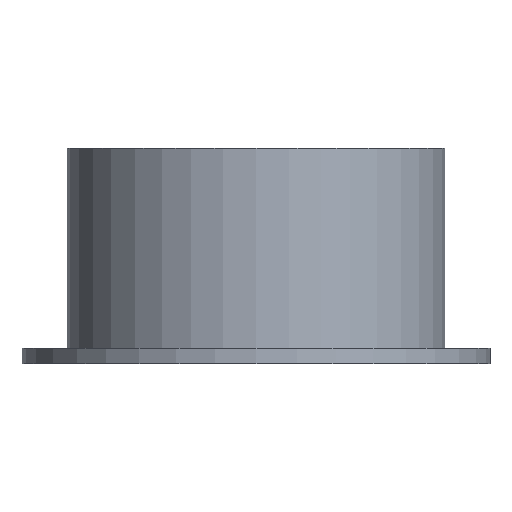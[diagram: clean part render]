
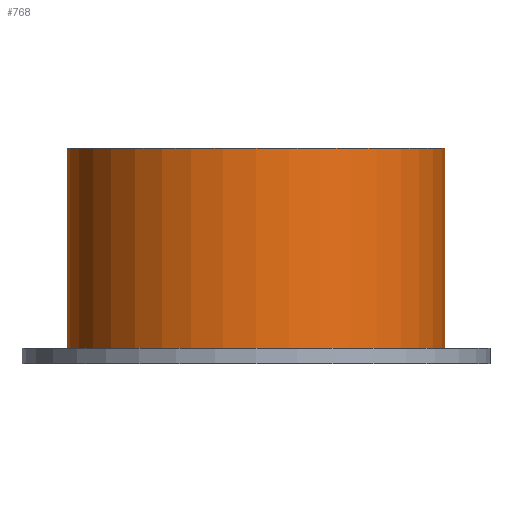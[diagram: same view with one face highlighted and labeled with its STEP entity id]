
A CAD part, front view. The second image highlights one B-rep face of the part: STEP entity #768.
In plain terms, the highlighted cylindrical face has radius 49 mm (diameter 98 mm), a full revolution.
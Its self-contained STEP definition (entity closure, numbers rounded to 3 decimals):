
#21=B_SPLINE_CURVE_WITH_KNOTS('',3,(#1292,#1293,#1294,#1295,#1296,#1297,
#1298,#1299,#1300,#1301,#1302,#1303,#1304,#1305,#1306,#1307,#1308,#1309),
 .UNSPECIFIED.,.F.,.F.,(4,2,2,2,2,2,2,2,4),(-2.262,-2.073,
-1.885,-1.696,-1.508,-1.319,-1.131,
-0.942,-0.754),.UNSPECIFIED.);
#22=B_SPLINE_CURVE_WITH_KNOTS('',3,(#1310,#1311,#1312,#1313,#1314,#1315,
#1316,#1317,#1318,#1319,#1320,#1321,#1322,#1323,#1324,#1325,#1326,#1327,
#1328),.UNSPECIFIED.,.F.,.F.,(4,2,2,2,3,2,2,2,4),(-0.754,-0.565,
-0.377,-0.188,0.,0.188,0.377,
0.565,0.754),.UNSPECIFIED.);
#28=CYLINDRICAL_SURFACE('',#850,49.);
#54=CIRCLE('',#842,49.);
#59=CIRCLE('',#849,49.);
#87=FACE_BOUND('',#179,.T.);
#115=FACE_OUTER_BOUND('',#178,.T.);
#178=EDGE_LOOP('',(#640,#641,#642,#643));
#179=EDGE_LOOP('',(#644,#645));
#248=LINE('',#1289,#316);
#316=VECTOR('',#1027,49.);
#384=VERTEX_POINT('',#1273);
#389=VERTEX_POINT('',#1286);
#390=VERTEX_POINT('',#1290);
#391=VERTEX_POINT('',#1291);
#471=EDGE_CURVE('',#384,#384,#54,.T.);
#477=EDGE_CURVE('',#389,#389,#59,.T.);
#478=EDGE_CURVE('',#384,#389,#248,.T.);
#479=EDGE_CURVE('',#390,#391,#21,.T.);
#480=EDGE_CURVE('',#391,#390,#22,.T.);
#640=ORIENTED_EDGE('',*,*,#471,.T.);
#641=ORIENTED_EDGE('',*,*,#478,.T.);
#642=ORIENTED_EDGE('',*,*,#477,.F.);
#643=ORIENTED_EDGE('',*,*,#478,.F.);
#644=ORIENTED_EDGE('',*,*,#479,.T.);
#645=ORIENTED_EDGE('',*,*,#480,.T.);
#768=ADVANCED_FACE('',(#115,#87),#28,.T.);
#842=AXIS2_PLACEMENT_3D('',#1274,#1008,#1009);
#849=AXIS2_PLACEMENT_3D('',#1287,#1023,#1024);
#850=AXIS2_PLACEMENT_3D('',#1288,#1025,#1026);
#1008=DIRECTION('center_axis',(0.,0.,1.));
#1009=DIRECTION('ref_axis',(1.,0.,0.));
#1023=DIRECTION('center_axis',(0.,0.,1.));
#1024=DIRECTION('ref_axis',(1.,0.,0.));
#1025=DIRECTION('center_axis',(0.,0.,-1.));
#1026=DIRECTION('ref_axis',(-1.,0.,0.));
#1027=DIRECTION('',(0.,0.,1.));
#1273=CARTESIAN_POINT('',(49.,0.,4.));
#1274=CARTESIAN_POINT('Origin',(0.,0.,4.));
#1286=CARTESIAN_POINT('',(49.,0.,56.));
#1287=CARTESIAN_POINT('Origin',(0.,0.,56.));
#1288=CARTESIAN_POINT('Origin',(0.,0.,56.));
#1289=CARTESIAN_POINT('',(49.,0.,56.));
#1290=CARTESIAN_POINT('',(0.,49.,9.));
#1291=CARTESIAN_POINT('',(0.,49.,19.));
#1292=CARTESIAN_POINT('Ctrl Pts',(0.,49.,9.));
#1293=CARTESIAN_POINT('Ctrl Pts',(0.628,49.,9.));
#1294=CARTESIAN_POINT('Ctrl Pts',(1.298,48.987,9.126));
#1295=CARTESIAN_POINT('Ctrl Pts',(2.53,48.939,9.636));
#1296=CARTESIAN_POINT('Ctrl Pts',(3.092,48.904,10.021));
#1297=CARTESIAN_POINT('Ctrl Pts',(3.979,48.84,10.908));
#1298=CARTESIAN_POINT('Ctrl Pts',(4.364,48.806,11.47));
#1299=CARTESIAN_POINT('Ctrl Pts',(4.874,48.758,12.702));
#1300=CARTESIAN_POINT('Ctrl Pts',(5.,48.744,13.372));
#1301=CARTESIAN_POINT('Ctrl Pts',(5.,48.744,14.628));
#1302=CARTESIAN_POINT('Ctrl Pts',(4.874,48.758,15.298));
#1303=CARTESIAN_POINT('Ctrl Pts',(4.364,48.806,16.53));
#1304=CARTESIAN_POINT('Ctrl Pts',(3.979,48.84,17.092));
#1305=CARTESIAN_POINT('Ctrl Pts',(3.092,48.904,17.979));
#1306=CARTESIAN_POINT('Ctrl Pts',(2.53,48.939,18.364));
#1307=CARTESIAN_POINT('Ctrl Pts',(1.298,48.987,18.874));
#1308=CARTESIAN_POINT('Ctrl Pts',(0.628,49.,19.));
#1309=CARTESIAN_POINT('Ctrl Pts',(0.,49.,19.));
#1310=CARTESIAN_POINT('Ctrl Pts',(0.,49.,19.));
#1311=CARTESIAN_POINT('Ctrl Pts',(-0.628,49.,19.));
#1312=CARTESIAN_POINT('Ctrl Pts',(-1.298,48.987,18.874));
#1313=CARTESIAN_POINT('Ctrl Pts',(-2.53,48.939,18.364));
#1314=CARTESIAN_POINT('Ctrl Pts',(-3.092,48.904,17.979));
#1315=CARTESIAN_POINT('Ctrl Pts',(-3.979,48.84,17.092));
#1316=CARTESIAN_POINT('Ctrl Pts',(-4.364,48.806,16.53));
#1317=CARTESIAN_POINT('Ctrl Pts',(-4.874,48.758,15.298));
#1318=CARTESIAN_POINT('Ctrl Pts',(-5.,48.744,14.628));
#1319=CARTESIAN_POINT('Ctrl Pts',(-5.,48.744,14.));
#1320=CARTESIAN_POINT('Ctrl Pts',(-5.,48.744,13.372));
#1321=CARTESIAN_POINT('Ctrl Pts',(-4.874,48.758,12.702));
#1322=CARTESIAN_POINT('Ctrl Pts',(-4.364,48.806,11.47));
#1323=CARTESIAN_POINT('Ctrl Pts',(-3.979,48.84,10.908));
#1324=CARTESIAN_POINT('Ctrl Pts',(-3.092,48.904,10.021));
#1325=CARTESIAN_POINT('Ctrl Pts',(-2.53,48.939,9.636));
#1326=CARTESIAN_POINT('Ctrl Pts',(-1.298,48.987,9.126));
#1327=CARTESIAN_POINT('Ctrl Pts',(-0.628,49.,9.));
#1328=CARTESIAN_POINT('Ctrl Pts',(0.,49.,9.));
